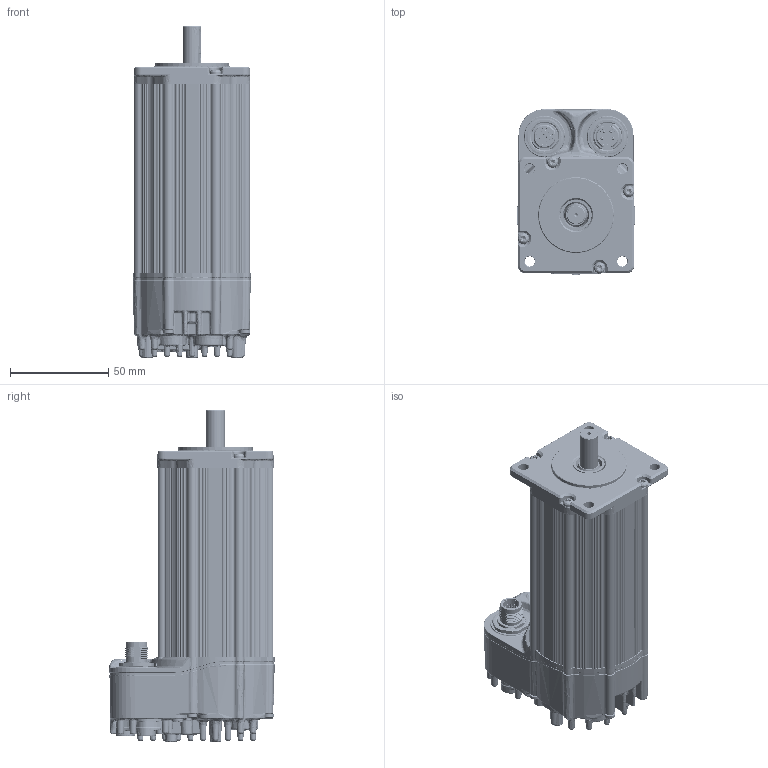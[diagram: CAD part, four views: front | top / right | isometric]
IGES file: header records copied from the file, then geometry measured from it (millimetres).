
Start section: SolidWorks IGES file using analytic representation for surfaces
Global section: file name: C:\TeknicPDM\EtherPath CPM-S\EtherPath CPM-S Customer Files\EC Customer Models\234x EC.IGS; native system: SolidWorks 2020; preprocessor: SolidWorks 2020; author: mike_berezny; date: 231213.170536; units: inch
Bounding box: 60.26 x 84.12 x 168.81 mm (x, y, z)
Surface area: 135075.2 mm2 (no closed solid volume)
Topology: 0 solids, 0 shells, 11923 faces, 107390 edges, 106702 vertices
Faces by surface type: bspline 6190, revolution 5733
